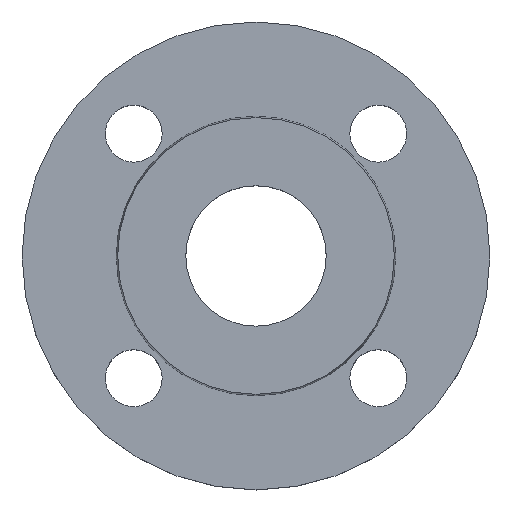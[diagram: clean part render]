
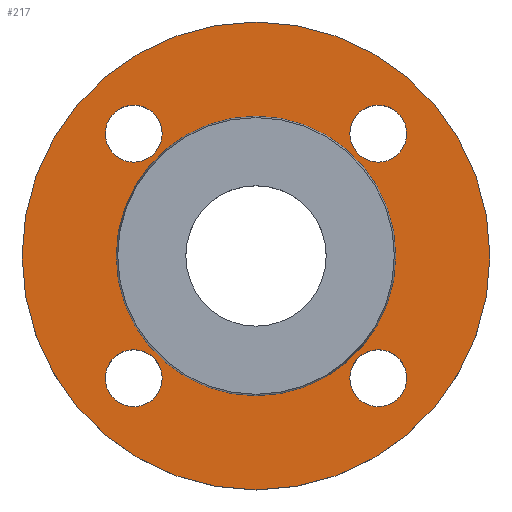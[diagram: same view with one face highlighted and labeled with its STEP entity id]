
A CAD part, top view. The second image highlights one B-rep face of the part: STEP entity #217.
In plain terms, the highlighted planar face has unit normal (0, 0, 1).
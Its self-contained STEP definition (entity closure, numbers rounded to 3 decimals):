
#3 = EDGE_CURVE ( 'NONE', #340, #344, #221, .T. ) ;
#12 = EDGE_CURVE ( 'NONE', #402, #384, #270, .T. ) ;
#15 = EDGE_CURVE ( 'NONE', #227, #399, #62, .T. ) ;
#18 = CIRCLE ( 'NONE', #20, 7. ) ;
#19 = EDGE_CURVE ( 'NONE', #377, #222, #30, .T. ) ;
#20 = AXIS2_PLACEMENT_3D ( 'NONE', #456, #457, #458 ) ;
#26 = AXIS2_PLACEMENT_3D ( 'NONE', #432, #434, #436 ) ;
#29 = CIRCLE ( 'NONE', #87, 7. ) ;
#30 = CIRCLE ( 'NONE', #26, 57.5 ) ;
#36 = AXIS2_PLACEMENT_3D ( 'NONE', #193, #194, #195 ) ;
#47 = CIRCLE ( 'NONE', #80, 7. ) ;
#50 = DIRECTION ( 'NONE',  ( 0., 0., -1. ) ) ;
#51 = CARTESIAN_POINT ( 'NONE',  ( 30.052, -30.052, -2. ) ) ;
#57 = EDGE_CURVE ( 'NONE', #222, #377, #131, .T. ) ;
#58 = EDGE_CURVE ( 'NONE', #224, #234, #18, .T. ) ;
#59 = AXIS2_PLACEMENT_3D ( 'NONE', #425, #426, #428 ) ;
#62 = CIRCLE ( 'NONE', #59, 7. ) ;
#66 = CIRCLE ( 'NONE', #36, 7. ) ;
#80 = AXIS2_PLACEMENT_3D ( 'NONE', #51, #50, #159 ) ;
#84 = AXIS2_PLACEMENT_3D ( 'NONE', #534, #535, #536 ) ;
#85 = AXIS2_PLACEMENT_3D ( 'NONE', #452, #453, #454 ) ;
#87 = AXIS2_PLACEMENT_3D ( 'NONE', #479, #480, #481 ) ;
#89 = AXIS2_PLACEMENT_3D ( 'NONE', #419, #420, #421 ) ;
#90 = CIRCLE ( 'NONE', #93, 34.353 ) ;
#93 = AXIS2_PLACEMENT_3D ( 'NONE', #496, #497, #498 ) ;
#98 = CARTESIAN_POINT ( 'NONE',  ( -37.052, 30.052, -2. ) ) ;
#99 = CARTESIAN_POINT ( 'NONE',  ( -23.052, 30.052, -2. ) ) ;
#107 = AXIS2_PLACEMENT_3D ( 'NONE', #502, #503, #504 ) ;
#114 = EDGE_CURVE ( 'NONE', #234, #224, #29, .T. ) ;
#119 = CIRCLE ( 'NONE', #107, 7. ) ;
#121 = CARTESIAN_POINT ( 'NONE',  ( 57.5, 0., -2. ) ) ;
#131 = CIRCLE ( 'NONE', #85, 57.5 ) ;
#135 = CARTESIAN_POINT ( 'NONE',  ( -34.353, 0., -2. ) ) ;
#153 = CARTESIAN_POINT ( 'NONE',  ( 37.052, -30.052, -2. ) ) ;
#156 = CARTESIAN_POINT ( 'NONE',  ( 23.052, -30.052, -2. ) ) ;
#159 = DIRECTION ( 'NONE',  ( 1., 0., 0. ) ) ;
#162 = AXIS2_PLACEMENT_3D ( 'NONE', #582, #583, #584 ) ;
#164 = EDGE_CURVE ( 'NONE', #384, #402, #90, .T. ) ;
#165 = CIRCLE ( 'NONE', #162, 7. ) ;
#172 = CARTESIAN_POINT ( 'NONE',  ( -23.052, -30.052, -2. ) ) ;
#174 = EDGE_CURVE ( 'NONE', #392, #389, #119, .T. ) ;
#176 = CARTESIAN_POINT ( 'NONE',  ( 34.353, 0., -2. ) ) ;
#193 = CARTESIAN_POINT ( 'NONE',  ( -30.052, -30.052, -2. ) ) ;
#194 = DIRECTION ( 'NONE',  ( 0., 0., -1. ) ) ;
#195 = DIRECTION ( 'NONE',  ( 1., 0., 0. ) ) ;
#214 = AXIS2_PLACEMENT_3D ( 'NONE', #408, #409, #410 ) ;
#217 = ADVANCED_FACE ( 'NONE', ( #527, #528, #529, #530, #531, #532 ), #533, .T. ) ;
#221 = CIRCLE ( 'NONE', #214, 7. ) ;
#222 = VERTEX_POINT ( 'NONE', #540 ) ;
#224 = VERTEX_POINT ( 'NONE', #541 ) ;
#227 = VERTEX_POINT ( 'NONE', #544 ) ;
#234 = VERTEX_POINT ( 'NONE', #551 ) ;
#236 = EDGE_LOOP ( 'NONE', ( #312, #313 ) ) ;
#270 = CIRCLE ( 'NONE', #89, 34.353 ) ;
#271 = EDGE_CURVE ( 'NONE', #344, #340, #165, .T. ) ;
#304 = EDGE_CURVE ( 'NONE', #389, #392, #47, .T. ) ;
#308 = EDGE_LOOP ( 'NONE', ( #319, #320 ) ) ;
#310 = ORIENTED_EDGE ( 'NONE', *, *, #304, .T. ) ;
#311 = ORIENTED_EDGE ( 'NONE', *, *, #174, .T. ) ;
#312 = ORIENTED_EDGE ( 'NONE', *, *, #433, .T. ) ;
#313 = ORIENTED_EDGE ( 'NONE', *, *, #15, .T. ) ;
#314 = ORIENTED_EDGE ( 'NONE', *, *, #271, .T. ) ;
#315 = ORIENTED_EDGE ( 'NONE', *, *, #3, .T. ) ;
#316 = ORIENTED_EDGE ( 'NONE', *, *, #114, .T. ) ;
#317 = ORIENTED_EDGE ( 'NONE', *, *, #58, .T. ) ;
#319 = ORIENTED_EDGE ( 'NONE', *, *, #164, .T. ) ;
#320 = ORIENTED_EDGE ( 'NONE', *, *, #12, .T. ) ;
#321 = ORIENTED_EDGE ( 'NONE', *, *, #19, .F. ) ;
#322 = ORIENTED_EDGE ( 'NONE', *, *, #57, .F. ) ;
#327 = EDGE_LOOP ( 'NONE', ( #310, #311 ) ) ;
#340 = VERTEX_POINT ( 'NONE', #98 ) ;
#342 = EDGE_LOOP ( 'NONE', ( #316, #317 ) ) ;
#344 = VERTEX_POINT ( 'NONE', #99 ) ;
#375 = EDGE_LOOP ( 'NONE', ( #314, #315 ) ) ;
#377 = VERTEX_POINT ( 'NONE', #121 ) ;
#384 = VERTEX_POINT ( 'NONE', #135 ) ;
#389 = VERTEX_POINT ( 'NONE', #153 ) ;
#391 = EDGE_LOOP ( 'NONE', ( #321, #322 ) ) ;
#392 = VERTEX_POINT ( 'NONE', #156 ) ;
#399 = VERTEX_POINT ( 'NONE', #172 ) ;
#402 = VERTEX_POINT ( 'NONE', #176 ) ;
#408 = CARTESIAN_POINT ( 'NONE',  ( -30.052, 30.052, -2. ) ) ;
#409 = DIRECTION ( 'NONE',  ( 0., 0., -1. ) ) ;
#410 = DIRECTION ( 'NONE',  ( 1., 0., 0. ) ) ;
#419 = CARTESIAN_POINT ( 'NONE',  ( 0., 0., -2. ) ) ;
#420 = DIRECTION ( 'NONE',  ( 0., 0., -1. ) ) ;
#421 = DIRECTION ( 'NONE',  ( -1., 0., 0. ) ) ;
#425 = CARTESIAN_POINT ( 'NONE',  ( -30.052, -30.052, -2. ) ) ;
#426 = DIRECTION ( 'NONE',  ( 0., 0., -1. ) ) ;
#428 = DIRECTION ( 'NONE',  ( 1., 0., 0. ) ) ;
#432 = CARTESIAN_POINT ( 'NONE',  ( 0., 0., -2. ) ) ;
#433 = EDGE_CURVE ( 'NONE', #399, #227, #66, .T. ) ;
#434 = DIRECTION ( 'NONE',  ( 0., 0., -1. ) ) ;
#436 = DIRECTION ( 'NONE',  ( -1., 0., 0. ) ) ;
#452 = CARTESIAN_POINT ( 'NONE',  ( 0., 0., -2. ) ) ;
#453 = DIRECTION ( 'NONE',  ( 0., 0., -1. ) ) ;
#454 = DIRECTION ( 'NONE',  ( -1., 0., 0. ) ) ;
#456 = CARTESIAN_POINT ( 'NONE',  ( 30.052, 30.052, -2. ) ) ;
#457 = DIRECTION ( 'NONE',  ( 0., 0., -1. ) ) ;
#458 = DIRECTION ( 'NONE',  ( 1., 0., 0. ) ) ;
#479 = CARTESIAN_POINT ( 'NONE',  ( 30.052, 30.052, -2. ) ) ;
#480 = DIRECTION ( 'NONE',  ( 0., 0., -1. ) ) ;
#481 = DIRECTION ( 'NONE',  ( 1., 0., 0. ) ) ;
#496 = CARTESIAN_POINT ( 'NONE',  ( 0., 0., -2. ) ) ;
#497 = DIRECTION ( 'NONE',  ( 0., 0., -1. ) ) ;
#498 = DIRECTION ( 'NONE',  ( -1., 0., 0. ) ) ;
#502 = CARTESIAN_POINT ( 'NONE',  ( 30.052, -30.052, -2. ) ) ;
#503 = DIRECTION ( 'NONE',  ( 0., 0., -1. ) ) ;
#504 = DIRECTION ( 'NONE',  ( 1., 0., 0. ) ) ;
#527 = FACE_BOUND ( 'NONE', #327, .T. ) ;
#528 = FACE_BOUND ( 'NONE', #236, .T. ) ;
#529 = FACE_BOUND ( 'NONE', #375, .T. ) ;
#530 = FACE_BOUND ( 'NONE', #342, .T. ) ;
#531 = FACE_BOUND ( 'NONE', #308, .T. ) ;
#532 = FACE_OUTER_BOUND ( 'NONE', #391, .T. ) ;
#533 = PLANE ( 'NONE',  #84 ) ;
#534 = CARTESIAN_POINT ( 'NONE',  ( 34.353, 0., -2. ) ) ;
#535 = DIRECTION ( 'NONE',  ( 0., 0., 1. ) ) ;
#536 = DIRECTION ( 'NONE',  ( 1., 0., 0. ) ) ;
#540 = CARTESIAN_POINT ( 'NONE',  ( -57.5, 0., -2. ) ) ;
#541 = CARTESIAN_POINT ( 'NONE',  ( 23.052, 30.052, -2. ) ) ;
#544 = CARTESIAN_POINT ( 'NONE',  ( -37.052, -30.052, -2. ) ) ;
#551 = CARTESIAN_POINT ( 'NONE',  ( 37.052, 30.052, -2. ) ) ;
#582 = CARTESIAN_POINT ( 'NONE',  ( -30.052, 30.052, -2. ) ) ;
#583 = DIRECTION ( 'NONE',  ( 0., 0., -1. ) ) ;
#584 = DIRECTION ( 'NONE',  ( 1., 0., 0. ) ) ;
